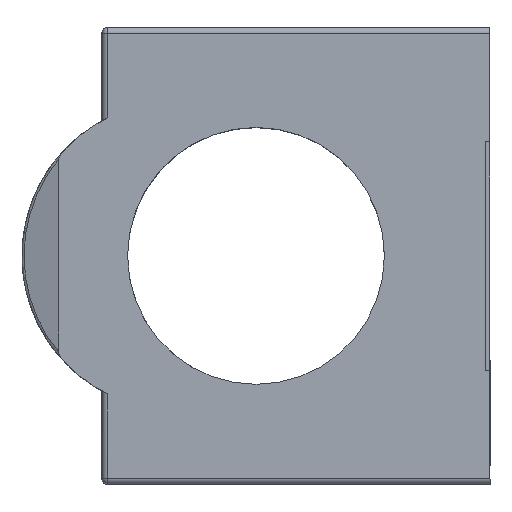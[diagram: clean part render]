
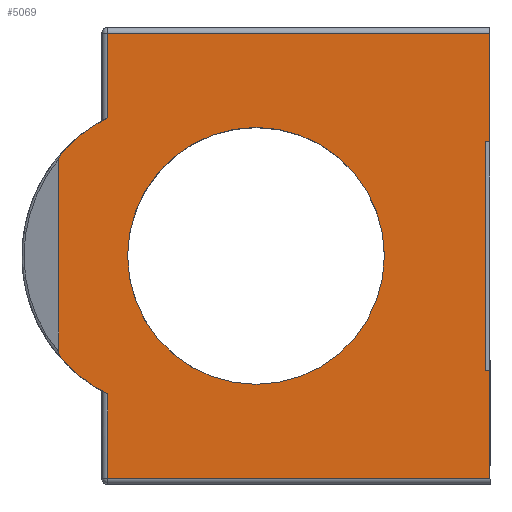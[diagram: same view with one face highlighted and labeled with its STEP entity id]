
A CAD part, top view. The second image highlights one B-rep face of the part: STEP entity #5069.
In plain terms, the highlighted planar face has unit normal (0, 0, 1).
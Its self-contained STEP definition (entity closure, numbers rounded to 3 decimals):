
#4908=CARTESIAN_POINT('',(-20.8,8.426,6.4));
#4909=VERTEX_POINT('',#4908);
#4910=CARTESIAN_POINT('',(-20.14,9.451,6.4));
#4911=VERTEX_POINT('',#4910);
#4912=CARTESIAN_POINT('',(-20.8,8.426,6.4));
#4913=CARTESIAN_POINT('',(-20.8,8.453,6.4));
#4914=CARTESIAN_POINT('',(-20.794,8.483,6.4));
#4915=CARTESIAN_POINT('',(-20.768,8.576,6.4));
#4916=CARTESIAN_POINT('',(-20.73,8.662,6.4));
#4917=CARTESIAN_POINT('',(-20.56,8.963,6.4));
#4918=CARTESIAN_POINT('',(-20.373,9.213,6.4));
#4919=CARTESIAN_POINT('',(-20.14,9.451,6.4));
#4920=B_SPLINE_CURVE_WITH_KNOTS('',3,(#4912,#4913,#4914,#4915,#4916,#4917,#4918,#4919),.UNSPECIFIED.,.F.,.U.,(4,2,2,4),(0.0,0.008,0.029,0.073),.UNSPECIFIED.);
#4921=EDGE_CURVE('',#4909,#4911,#4920,.T.);
#4923=CARTESIAN_POINT('',(-20.14,-9.451,6.4));
#4924=VERTEX_POINT('',#4923);
#4932=CARTESIAN_POINT('',(-20.8,-8.426,6.4));
#4933=VERTEX_POINT('',#4932);
#4934=CARTESIAN_POINT('',(-20.14,-9.451,6.4));
#4935=CARTESIAN_POINT('',(-20.335,-9.252,6.4));
#4936=CARTESIAN_POINT('',(-20.499,-9.044,6.4));
#4937=CARTESIAN_POINT('',(-20.676,-8.762,6.4));
#4938=CARTESIAN_POINT('',(-20.722,-8.677,6.4));
#4939=CARTESIAN_POINT('',(-20.772,-8.559,6.4));
#4940=CARTESIAN_POINT('',(-20.8,-8.484,6.4));
#4941=CARTESIAN_POINT('',(-20.8,-8.426,6.4));
#4942=B_SPLINE_CURVE_WITH_KNOTS('',3,(#4934,#4935,#4936,#4937,#4938,#4939,#4940,#4941),.UNSPECIFIED.,.F.,.U.,(4,2,2,4),(0.0,0.084,0.126,0.152),.UNSPECIFIED.);
#4943=EDGE_CURVE('',#4924,#4933,#4942,.T.);
#4955=CARTESIAN_POINT('',(-1.351,0.,6.4));
#4956=DIRECTION('',(0.0,0.0,1.0));
#4957=DIRECTION('',(1.0,0.0,0.0));
#4958=AXIS2_PLACEMENT_3D('',#4955,#4956,#4957);
#4959=PLANE('',#4958);
#4960=ORIENTED_EDGE('',*,*,#4943,.F.);
#4961=CARTESIAN_POINT('',(-16.5,-12.093,6.4));
#4962=VERTEX_POINT('',#4961);
#4963=CARTESIAN_POINT('',(-10.5,0.0,6.4));
#4964=DIRECTION('',(0.0,0.0,-1.0));
#4965=DIRECTION('',(0.481,-0.876,0.0));
#4966=AXIS2_PLACEMENT_3D('',#4963,#4964,#4965);
#4967=CIRCLE('',#4966,13.5);
#4968=EDGE_CURVE('',#4962,#4924,#4967,.T.);
#4969=ORIENTED_EDGE('',*,*,#4968,.F.);
#4970=CARTESIAN_POINT('',(-16.5,-19.5,6.4));
#4971=VERTEX_POINT('',#4970);
#4972=CARTESIAN_POINT('',(-16.5,-19.5,6.4));
#4973=DIRECTION('',(0.0,1.0,0.0));
#4974=VECTOR('',#4973,7.407);
#4975=LINE('',#4972,#4974);
#4976=EDGE_CURVE('',#4971,#4962,#4975,.T.);
#4977=ORIENTED_EDGE('',*,*,#4976,.F.);
#4978=CARTESIAN_POINT('',(17.0,-19.5,6.4));
#4979=VERTEX_POINT('',#4978);
#4980=CARTESIAN_POINT('',(17.0,-19.5,6.4));
#4981=DIRECTION('',(-1.0,0.0,0.0));
#4982=VECTOR('',#4981,33.5);
#4983=LINE('',#4980,#4982);
#4984=EDGE_CURVE('',#4979,#4971,#4983,.T.);
#4985=ORIENTED_EDGE('',*,*,#4984,.F.);
#4986=CARTESIAN_POINT('',(17.0,-10.,6.4));
#4987=VERTEX_POINT('',#4986);
#4988=CARTESIAN_POINT('',(17.0,-10.,6.4));
#4989=DIRECTION('',(0.0,-1.0,0.0));
#4990=VECTOR('',#4989,9.5);
#4991=LINE('',#4988,#4990);
#4992=EDGE_CURVE('',#4987,#4979,#4991,.T.);
#4993=ORIENTED_EDGE('',*,*,#4992,.F.);
#4994=CARTESIAN_POINT('',(16.6,-10.,6.4));
#4995=VERTEX_POINT('',#4994);
#4996=CARTESIAN_POINT('',(17.0,-10.,6.4));
#4997=DIRECTION('',(-1.0,0.0,0.0));
#4998=VECTOR('',#4997,0.4);
#4999=LINE('',#4996,#4998);
#5000=EDGE_CURVE('',#4987,#4995,#4999,.T.);
#5001=ORIENTED_EDGE('',*,*,#5000,.T.);
#5002=CARTESIAN_POINT('',(16.6,10.,6.4));
#5003=VERTEX_POINT('',#5002);
#5004=CARTESIAN_POINT('',(16.6,-10.,6.4));
#5005=DIRECTION('',(0.0,1.0,0.0));
#5006=VECTOR('',#5005,20.0);
#5007=LINE('',#5004,#5006);
#5008=EDGE_CURVE('',#4995,#5003,#5007,.T.);
#5009=ORIENTED_EDGE('',*,*,#5008,.T.);
#5010=CARTESIAN_POINT('',(17.,10.,6.4));
#5011=VERTEX_POINT('',#5010);
#5012=CARTESIAN_POINT('',(16.6,10.,6.4));
#5013=DIRECTION('',(1.0,0.0,0.0));
#5014=VECTOR('',#5013,0.4);
#5015=LINE('',#5012,#5014);
#5016=EDGE_CURVE('',#5003,#5011,#5015,.T.);
#5017=ORIENTED_EDGE('',*,*,#5016,.T.);
#5018=CARTESIAN_POINT('',(17.,19.5,6.4));
#5019=VERTEX_POINT('',#5018);
#5020=CARTESIAN_POINT('',(17.,19.5,6.4));
#5021=DIRECTION('',(0.0,-1.0,0.0));
#5022=VECTOR('',#5021,9.5);
#5023=LINE('',#5020,#5022);
#5024=EDGE_CURVE('',#5019,#5011,#5023,.T.);
#5025=ORIENTED_EDGE('',*,*,#5024,.F.);
#5026=CARTESIAN_POINT('',(-16.5,19.5,6.4));
#5027=VERTEX_POINT('',#5026);
#5028=CARTESIAN_POINT('',(-16.5,19.5,6.4));
#5029=DIRECTION('',(1.0,0.0,0.0));
#5030=VECTOR('',#5029,33.5);
#5031=LINE('',#5028,#5030);
#5032=EDGE_CURVE('',#5027,#5019,#5031,.T.);
#5033=ORIENTED_EDGE('',*,*,#5032,.F.);
#5034=CARTESIAN_POINT('',(-16.5,12.093,6.4));
#5035=VERTEX_POINT('',#5034);
#5036=CARTESIAN_POINT('',(-16.5,12.093,6.4));
#5037=DIRECTION('',(0.0,1.0,0.0));
#5038=VECTOR('',#5037,7.407);
#5039=LINE('',#5036,#5038);
#5040=EDGE_CURVE('',#5035,#5027,#5039,.T.);
#5041=ORIENTED_EDGE('',*,*,#5040,.F.);
#5042=CARTESIAN_POINT('',(-10.5,0.0,6.4));
#5043=DIRECTION('',(0.0,0.0,-1.0));
#5044=DIRECTION('',(0.481,-0.876,0.0));
#5045=AXIS2_PLACEMENT_3D('',#5042,#5043,#5044);
#5046=CIRCLE('',#5045,13.5);
#5047=EDGE_CURVE('',#4911,#5035,#5046,.T.);
#5048=ORIENTED_EDGE('',*,*,#5047,.F.);
#5049=ORIENTED_EDGE('',*,*,#4921,.F.);
#5050=CARTESIAN_POINT('',(-20.8,8.426,6.4));
#5051=DIRECTION('',(0.0,-1.0,0.0));
#5052=VECTOR('',#5051,16.853);
#5053=LINE('',#5050,#5052);
#5054=EDGE_CURVE('',#4909,#4933,#5053,.T.);
#5055=ORIENTED_EDGE('',*,*,#5054,.T.);
#5056=EDGE_LOOP('',(#4960,#4969,#4977,#4985,#4993,#5001,#5009,#5017,#5025,#5033,#5041,#5048,#5049,#5055));
#5057=FACE_OUTER_BOUND('',#5056,.T.);
#5058=CARTESIAN_POINT('',(-14.75,0.,6.4));
#5059=VERTEX_POINT('',#5058);
#5060=CARTESIAN_POINT('',(-3.5,0.,6.4));
#5061=DIRECTION('',(0.0,0.0,-1.0));
#5062=DIRECTION('',(1.0,0.0,0.0));
#5063=AXIS2_PLACEMENT_3D('',#5060,#5061,#5062);
#5064=CIRCLE('',#5063,11.25);
#5065=EDGE_CURVE('',#5059,#5059,#5064,.T.);
#5066=ORIENTED_EDGE('',*,*,#5065,.T.);
#5067=EDGE_LOOP('',(#5066));
#5068=FACE_BOUND('',#5067,.T.);
#5069=ADVANCED_FACE('',(#5057,#5068),#4959,.T.);
